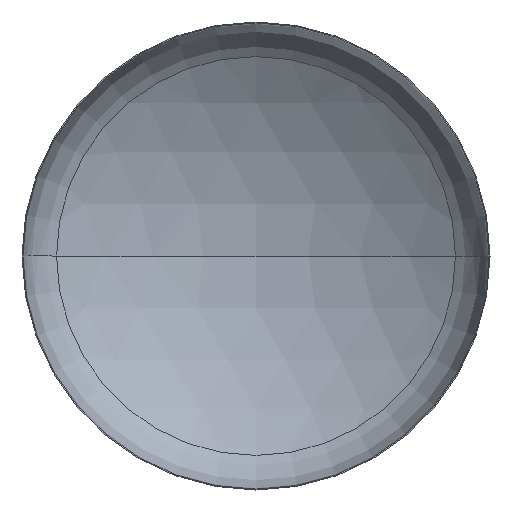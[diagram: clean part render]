
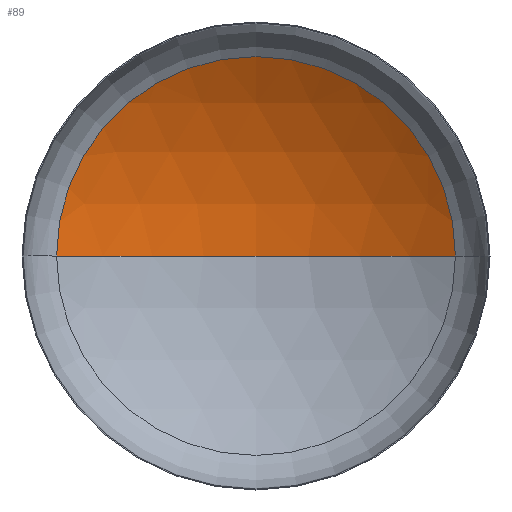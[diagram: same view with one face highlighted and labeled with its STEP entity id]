
A CAD part, front view. The second image highlights one B-rep face of the part: STEP entity #89.
In plain terms, the highlighted spherical face has radius 3200 mm.
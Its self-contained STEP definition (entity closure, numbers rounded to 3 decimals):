
#14 = EDGE_LOOP ( 'NONE', ( #126, #95, #104 ) ) ;
#15 = AXIS2_PLACEMENT_3D ( 'NONE', #175, #399, #290 ) ;
#20 = AXIS2_PLACEMENT_3D ( 'NONE', #149, #150, #377 ) ;
#25 = VERTEX_POINT ( 'NONE', #250 ) ;
#63 = AXIS2_PLACEMENT_3D ( 'NONE', #347, #197, #371 ) ;
#89 = ADVANCED_FACE ( 'NONE', ( #263 ), #330, .F. ) ;
#95 = ORIENTED_EDGE ( 'NONE', *, *, #372, .T. ) ;
#104 = ORIENTED_EDGE ( 'NONE', *, *, #326, .T. ) ;
#126 = ORIENTED_EDGE ( 'NONE', *, *, #355, .F. ) ;
#132 = DIRECTION ( 'NONE',  ( 0., 0., -1. ) ) ;
#134 = DIRECTION ( 'NONE',  ( -1., 0., 0. ) ) ;
#149 = CARTESIAN_POINT ( 'NONE',  ( 0., 545.481, 0. ) ) ;
#150 = DIRECTION ( 'NONE',  ( 0., -1., 0. ) ) ;
#165 = AXIS2_PLACEMENT_3D ( 'NONE', #275, #132, #134 ) ;
#175 = CARTESIAN_POINT ( 'NONE',  ( 0., -2162.715, 0. ) ) ;
#197 = DIRECTION ( 'NONE',  ( 0., 0., -1. ) ) ;
#198 = CARTESIAN_POINT ( 'NONE',  ( 1704.603, 545.481, 0. ) ) ;
#208 = CIRCLE ( 'NONE', #165, 3200. ) ;
#215 = CIRCLE ( 'NONE', #15, 3200. ) ;
#223 = CIRCLE ( 'NONE', #20, 1704.603 ) ;
#250 = CARTESIAN_POINT ( 'NONE',  ( -1704.603, 545.481, 0. ) ) ;
#254 = CARTESIAN_POINT ( 'NONE',  ( 0., 1037.285, 0. ) ) ;
#263 = FACE_OUTER_BOUND ( 'NONE', #14, .T. ) ;
#275 = CARTESIAN_POINT ( 'NONE',  ( 0., -2162.715, 0. ) ) ;
#277 = VERTEX_POINT ( 'NONE', #198 ) ;
#290 = DIRECTION ( 'NONE',  ( 1., 0., 0. ) ) ;
#326 = EDGE_CURVE ( 'NONE', #277, #25, #223, .T. ) ;
#330 = SPHERICAL_SURFACE ( 'NONE', #63, 3200. ) ;
#347 = CARTESIAN_POINT ( 'NONE',  ( 0., -2162.715, 0. ) ) ;
#355 = EDGE_CURVE ( 'NONE', #401, #25, #215, .T. ) ;
#371 = DIRECTION ( 'NONE',  ( -1., 0., 0. ) ) ;
#372 = EDGE_CURVE ( 'NONE', #401, #277, #208, .T. ) ;
#377 = DIRECTION ( 'NONE',  ( 1., 0., 0. ) ) ;
#399 = DIRECTION ( 'NONE',  ( 0., 0., 1. ) ) ;
#401 = VERTEX_POINT ( 'NONE', #254 ) ;
